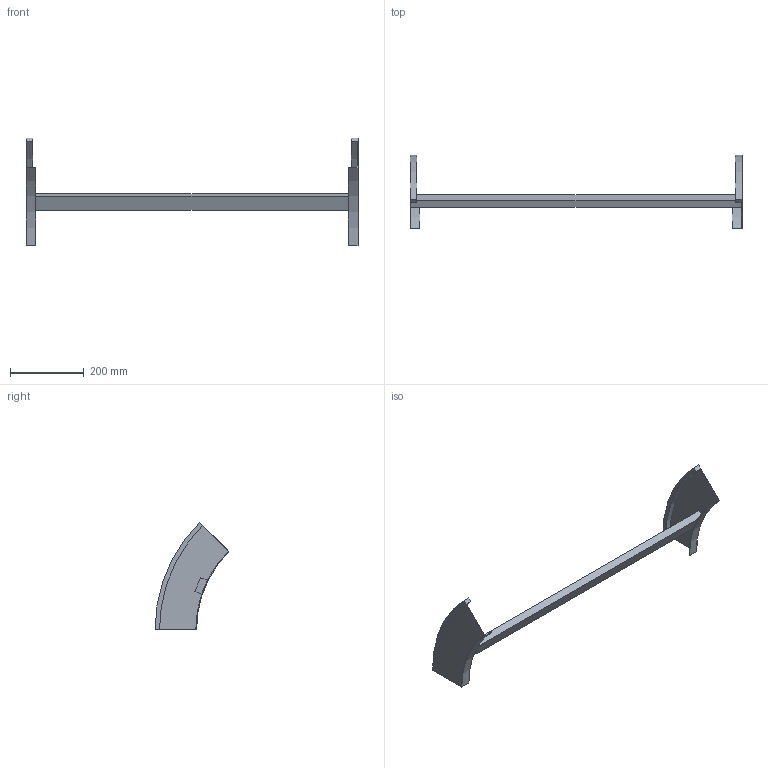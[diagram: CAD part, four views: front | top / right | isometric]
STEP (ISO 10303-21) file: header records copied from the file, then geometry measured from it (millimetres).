
FILE_DESCRIPTION (( 'STEP AP214' ), '1' );
FILE_NAME ('B2_34B3J900.step', '2025-02-21T14:54:08', ( '' ), ( '' ), 'SwSTEP 2.0', 'SolidWorks 2023', '' );
FILE_SCHEMA (( 'AUTOMOTIVE_DESIGN' ));
Length unit declared in the file: millimetre
Products named in the file (3): TRAVERSINO_900; B2_LONGH.DISCESA_45°_H112.5_R300; B2_34B3J900
Assembly tree (3 placements, depth 2):
  B2_34B3J900
    B2_LONGH.DISCESA_45°_H112.5_R300  x2
    TRAVERSINO_900
Bounding box: 900 x 200.37 x 291.68 mm (x, y, z)
Volume: 997907.1 mm3; surface area: 284124.9 mm2
Topology: 3 solids, 3 shells, 26 faces, 60 edges, 40 vertices
Faces by surface type: plane 18, cylinder 8
Entity records: 544 total; most frequent: DIRECTION 88, CARTESIAN_POINT 82, ORIENTED_EDGE 72, EDGE_CURVE 36, AXIS2_PLACEMENT_3D 30, LINE 28, VECTOR 28, VERTEX_POINT 24
